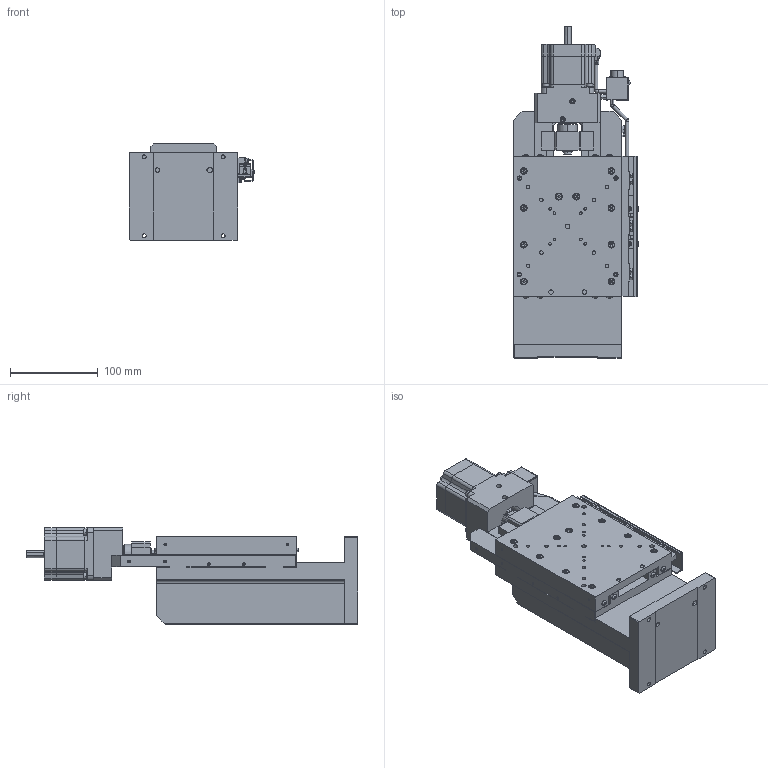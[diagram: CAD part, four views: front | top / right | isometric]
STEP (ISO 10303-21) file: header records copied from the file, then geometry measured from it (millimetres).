
FILE_DESCRIPTION (( 'STEP AP203' ), '1' );
FILE_NAME ('ZA16A-X101-R.STEP', '2019-02-21T00:40:57', ( '' ), ( '' ), 'SwSTEP 2.0', 'SolidWorks 2018', '' );
FILE_SCHEMA (( 'CONFIG_CONTROL_DESIGN' ));
Length unit declared in the file: millimetre
Products named in the file (3): base; ZA16A-X101-R; table
Assembly tree (2 placements, depth 2):
  ZA16A-X101-R
    table
    base
Bounding box: 143.09 x 378.5 x 110 mm (x, y, z)
Volume: 1895361 mm3; surface area: 337363.3 mm2
Topology: 2 solids, 2 shells, 2466 faces, 6091 edges, 3746 vertices
Faces by surface type: plane 1479, cylinder 625, cone 292, sphere 32, bspline 20, torus 18
Entity records: 73389 total; most frequent: CARTESIAN_POINT 13709, DIRECTION 12864, ORIENTED_EDGE 11990, EDGE_CURVE 5995, AXIS2_PLACEMENT_3D 4555, VECTOR 3754, LINE 3754, VERTEX_POINT 3746
